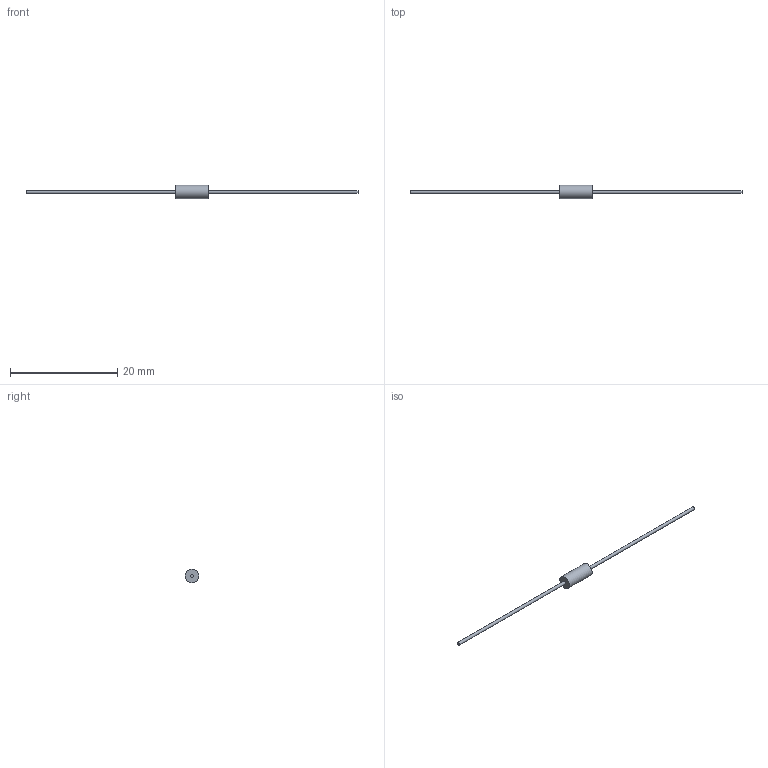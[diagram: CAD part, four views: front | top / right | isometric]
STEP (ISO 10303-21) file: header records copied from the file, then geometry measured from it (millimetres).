
FILE_DESCRIPTION(/* description */ (''),/* implementation_level */ '2;1');
FILE_NAME(/* name */ 'C:\Users\mulla\Documents\SEI Models\Inventor Files\HVA\3D\HVA05_stp.stp',/* time_stamp */ '2019-06-12T13:00:30-04:00',/* author */ ('mulla'),/* organization */ (''),/* preprocessor_version */ 'ST-DEVELOPER v16.1',/* originating_system */ 'Autodesk Inventor 2016',/* authorisation */ '');
FILE_SCHEMA (('AUTOMOTIVE_DESIGN { 1 0 10303 214 3 1 1 }'));
Length unit declared in the file: millimetre
Products named in the file (1): HVA05
Bounding box: 62 x 2.5 x 2.5 mm (x, y, z)
Volume: 42.8 mm3; surface area: 154.7 mm2
Topology: 3 solids, 3 shells, 9 faces, 9 edges, 6 vertices
Faces by surface type: plane 6, cylinder 3
Full cylindrical faces by diameter (mm): 0.55 x2, 2.5 x1
Entity records: 186 total; most frequent: DIRECTION 32, CARTESIAN_POINT 22, AXIS2_PLACEMENT_3D 16, EDGE_LOOP 12, ORIENTED_EDGE 12, FACE_OUTER_BOUND 9, ADVANCED_FACE 9, PLANE 6
